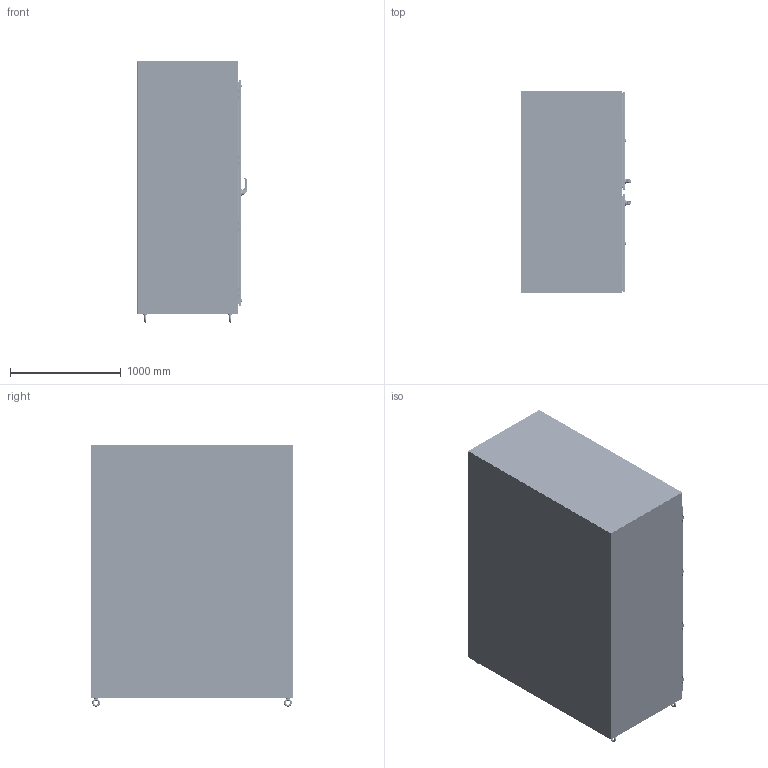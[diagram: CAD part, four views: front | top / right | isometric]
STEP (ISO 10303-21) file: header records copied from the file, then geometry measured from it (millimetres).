
FILE_DESCRIPTION((''),'2;1');
FILE_NAME('MODEL-233_ASM','2026-04-28T15:08:01',('johnh'),('SAGINAW CONTROL & ENGINEERING'),'CREO PARAMETRIC BY PTC INC, 2021284','CREO PARAMETRIC BY PTC INC, 2021284','');
FILE_SCHEMA(('AUTOMOTIVE_DESIGN { 1 0 10303 214 1 1 1 1 }'));
Length unit declared in the file: inch
Products named in the file (86): MODEL-233-L-SD; MODEL-233-TP; MODEL-233-BTM; MODEL-233-R-SD; MODEL-233-BCK; MODEL-233-RH-DR; 100837; 111267; 100882; 100955_SCREW_MTG; 100955_PADLOCK_CATCH; 100955_SCREW_LARGE; 100955_INSERT_SHAFT; 100955_INSERT_PKH; 100955_GASKET; 100955_O-RING; 100955_BASE; 100955_SPRING; 100955_HANDLE; 100955_CAM_SHAFT; 100955_HANDLE_ASM; 100955_CAM_ADAPTER; 100955_EARTH_NUT; 100955_FLANGE_NUT; 100955_CAM_NUT; 100955_KEY_INSERT; 100955_SPRING_CAM; 100955_TORSION_SPRING; 100955_SCREW_INSERT; 100955_ASM; 102236; 100030; 102236_ASM; MODEL-233-ROD-UPR-RH; 128146; 128145; 128144; 102482; MODEL-233-ROD-UPR-RH_ASM; 128143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
Assembly tree (219 placements, depth 5):
  MODEL-233_ASM
    MODEL-233-L-SD
    MODEL-233-TP
    MODEL-233-BTM
    MODEL-233-R-SD
    MODEL-233-BCK
    MODEL-233-RH-DOOR-ASSY_ASM
      MODEL-233-RH-DR
      100837  x5
      111267
      100882  x12
      100955_ASM
        100955_SCREW_MTG
        100955_PADLOCK_CATCH
        100955_SCREW_LARGE  x2
        100955_INSERT_SHAFT
        100955_INSERT_PKH
        100955_GASKET
        100955_O-RING
        100955_BASE
        100955_SPRING
        100955_HANDLE_ASM
          100955_HANDLE
          100955_CAM_SHAFT
        100955_CAM_ADAPTER
        100955_EARTH_NUT
        100955_FLANGE_NUT
        100955_CAM_NUT
        100955_KEY_INSERT
        100955_SPRING_CAM
        100955_TORSION_SPRING
        100955_SCREW_INSERT
      102236_ASM
        102236
        100030  x2
      MODEL-233-ROD-UPR-RH_ASM
        MODEL-233-ROD-UPR-RH
        128146
        128145
        128144
        102482  x2
      128143  x2
      112504  x2
      MODEL-233-ROD-LWR-RH_ASM
        MODEL-233-ROD-LWR-RH
        128146
        128145
        128144
        102482  x2
      MODEL-233-RH-PR-GS
      113885_ASM  x2
        113885_SHAFT
        113885_INSERT
        113885_CAM_30MM
        113885_NUT
        113885_SCREW
      128258_ASM  x4
        128258
      126395  x4
      102483  x4
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Bounding box: 992.65 x 1828.8 x 2365.04 mm (x, y, z)
Volume: 49904620.4 mm3; surface area: 37160477.9 mm2
Topology: 277 solids, 277 shells, 26409 faces, 67824 edges, 41956 vertices
Faces by surface type: plane 9668, cylinder 6993, bspline 5796, torus 1790, cone 1442, sphere 604, extrusion 116
Entity records: 441220 total; most frequent: CARTESIAN_POINT 171152, ORIENTED_EDGE 41114, DIRECTION 37641, PRESENTATION_STYLE_ASSIGNMENT 21139, STYLED_ITEM 20857, EDGE_CURVE 20557, CURVE_STYLE 20347, AXIS2_PLACEMENT_3D 13747
